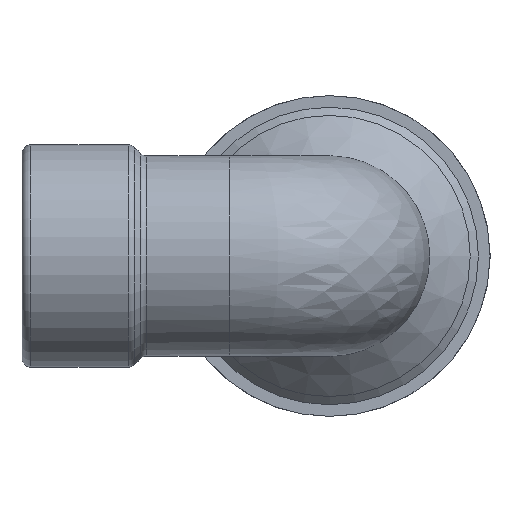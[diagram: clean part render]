
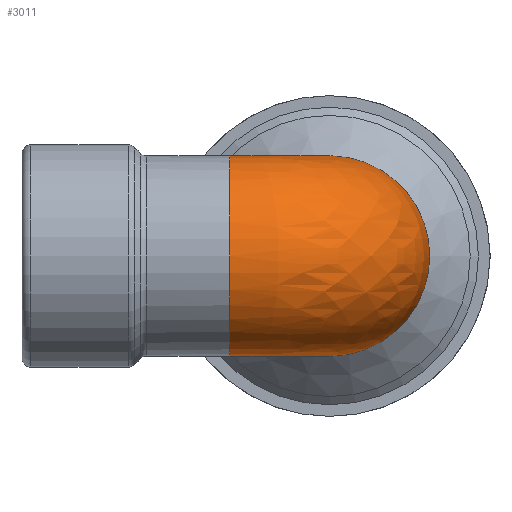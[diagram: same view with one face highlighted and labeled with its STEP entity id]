
A CAD part, left-side view. The second image highlights one B-rep face of the part: STEP entity #3011.
In plain terms, the highlighted free-form (B-spline) face has degree [2, 2] with [9, 3] control points.
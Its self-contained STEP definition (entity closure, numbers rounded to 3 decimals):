
#609=(
BOUNDED_SURFACE()
B_SPLINE_SURFACE(2,2,((#4587,#4588,#4589),(#4590,#4591,#4592),(#4593,#4594,
#4595),(#4596,#4597,#4598),(#4599,#4600,#4601),(#4602,#4603,#4604),(#4605,
#4606,#4607),(#4608,#4609,#4610),(#4611,#4612,#4613)),.UNSPECIFIED.,.F.,
 .F.,.F.)
B_SPLINE_SURFACE_WITH_KNOTS((3,2,2,2,3),(3,3),(-3.093,-1.546,
0.,1.546,3.093),(-3.142,-1.571),
 .UNSPECIFIED.)
GEOMETRIC_REPRESENTATION_ITEM()
RATIONAL_B_SPLINE_SURFACE(((1.,0.707,1.),(0.716,
0.506,0.716),(1.,0.707,1.),(0.716,
0.506,0.716),(1.,0.707,1.),(0.716,
0.506,0.716),(1.,0.707,1.),(0.716,
0.506,0.716),(1.,0.707,1.)))
REPRESENTATION_ITEM('')
SURFACE()
);
#654=FACE_OUTER_BOUND('',#868,.T.);
#868=EDGE_LOOP('',(#2024,#2025));
#1104=CIRCLE('',#3228,22.787);
#1105=CIRCLE('',#3229,22.787);
#1284=VERTEX_POINT('',#4614);
#1285=VERTEX_POINT('',#4615);
#1560=EDGE_CURVE('',#1284,#1285,#1104,.T.);
#1561=EDGE_CURVE('',#1284,#1285,#1105,.T.);
#2024=ORIENTED_EDGE('',*,*,#1560,.T.);
#2025=ORIENTED_EDGE('',*,*,#1561,.F.);
#3011=ADVANCED_FACE('',(#654),#609,.F.);
#3228=AXIS2_PLACEMENT_3D('',#4616,#3626,#3627);
#3229=AXIS2_PLACEMENT_3D('',#4617,#3628,#3629);
#3626=DIRECTION('center_axis',(0.,-1.,0.));
#3627=DIRECTION('ref_axis',(-1.,0.,0.));
#3628=DIRECTION('center_axis',(1.,0.,0.));
#3629=DIRECTION('ref_axis',(0.,0.,-1.));
#4587=CARTESIAN_POINT('Ctrl Pts',(22.76,22.76,-1.107));
#4588=CARTESIAN_POINT('Ctrl Pts',(22.76,22.76,-1.107));
#4589=CARTESIAN_POINT('Ctrl Pts',(22.76,22.76,-1.107));
#4590=CARTESIAN_POINT('Ctrl Pts',(21.679,22.76,-23.321));
#4591=CARTESIAN_POINT('Ctrl Pts',(21.679,21.679,-23.321));
#4592=CARTESIAN_POINT('Ctrl Pts',(22.76,21.679,-23.321));
#4593=CARTESIAN_POINT('Ctrl Pts',(-0.554,22.76,-22.78));
#4594=CARTESIAN_POINT('Ctrl Pts',(-0.554,-0.554,
-22.78));
#4595=CARTESIAN_POINT('Ctrl Pts',(22.76,-0.554,-22.78));
#4596=CARTESIAN_POINT('Ctrl Pts',(-22.787,22.76,-22.24));
#4597=CARTESIAN_POINT('Ctrl Pts',(-22.787,-22.787,-22.24));
#4598=CARTESIAN_POINT('Ctrl Pts',(22.76,-22.787,-22.24));
#4599=CARTESIAN_POINT('Ctrl Pts',(-22.787,22.76,0.));
#4600=CARTESIAN_POINT('Ctrl Pts',(-22.787,-22.787,0.));
#4601=CARTESIAN_POINT('Ctrl Pts',(22.76,-22.787,0.));
#4602=CARTESIAN_POINT('Ctrl Pts',(-22.787,22.76,22.24));
#4603=CARTESIAN_POINT('Ctrl Pts',(-22.787,-22.787,22.24));
#4604=CARTESIAN_POINT('Ctrl Pts',(22.76,-22.787,22.24));
#4605=CARTESIAN_POINT('Ctrl Pts',(-0.554,22.76,22.78));
#4606=CARTESIAN_POINT('Ctrl Pts',(-0.554,-0.554,
22.78));
#4607=CARTESIAN_POINT('Ctrl Pts',(22.76,-0.554,22.78));
#4608=CARTESIAN_POINT('Ctrl Pts',(21.679,22.76,23.321));
#4609=CARTESIAN_POINT('Ctrl Pts',(21.679,21.679,23.321));
#4610=CARTESIAN_POINT('Ctrl Pts',(22.76,21.679,23.321));
#4611=CARTESIAN_POINT('Ctrl Pts',(22.76,22.76,1.107));
#4612=CARTESIAN_POINT('Ctrl Pts',(22.76,22.76,1.107));
#4613=CARTESIAN_POINT('Ctrl Pts',(22.76,22.76,1.107));
#4614=CARTESIAN_POINT('',(22.76,22.76,1.107));
#4615=CARTESIAN_POINT('',(22.76,22.76,-1.107));
#4616=CARTESIAN_POINT('Origin',(0.,22.76,0.));
#4617=CARTESIAN_POINT('Origin',(22.76,0.,0.));
